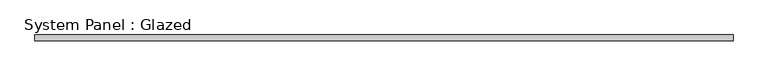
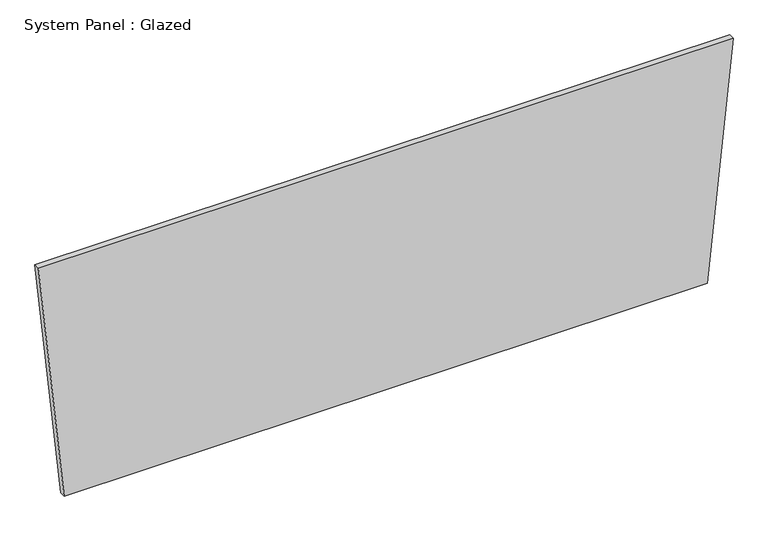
"""IFC4 building model written with IfcOpenShell, lengths in millimetres: plate geometry, System Panel : Glazed."""

from ifc_helpers import new_model, si_unit, frame, origin, place, context, project, spatial, polyline, outline, extrude, source, transform, mapped, element, save


def system_panel_glazed_4e7d729c(model_context):
    return source(origin(), model_context, "Body", "SweptSolid", [
        extrude(outline(polyline([(0.0, -1365.3998916), (0.0, 1365.3998916), (1061.1995319, 1474.5685384), (1061.1995319, -1474.5685384), (0.0, -1365.3998916)])), frame((0.0, -44.45, 0.0), z_axis=(0.0, 1.0, 0.0), x_axis=(0.0, 0.0, 1.0)), (0.0, 0.0, 1.0), 25.4),
    ])


if __name__ == "__main__":
    model = new_model("IFC4")
    model_context = context("Model", 3, world=origin())
    ifc_project = project(units=[si_unit("LENGTHUNIT", "METRE", prefix="MILLI")], contexts=[model_context])
    site = spatial("IfcSite", under=ifc_project)
    building = spatial("IfcBuilding", under=site)
    placement = place(None, origin())
    system_panel_glazed_shape = system_panel_glazed_4e7d729c(model_context)
    element("IfcPlate", 1, ObjectType="System Panel : Glazed", at=placement, inside=building, context=model_context, shape_type="MappedRepresentation", body=[
        mapped(system_panel_glazed_shape, transform((0.0, 0.0, 0.0), x_axis=(1.0, 0.0, 0.0), y_axis=(0.0, 1.0, 0.0), z_axis=(0.0, 0.0, 1.0))),
    ])
    save(model, "model.ifc")
